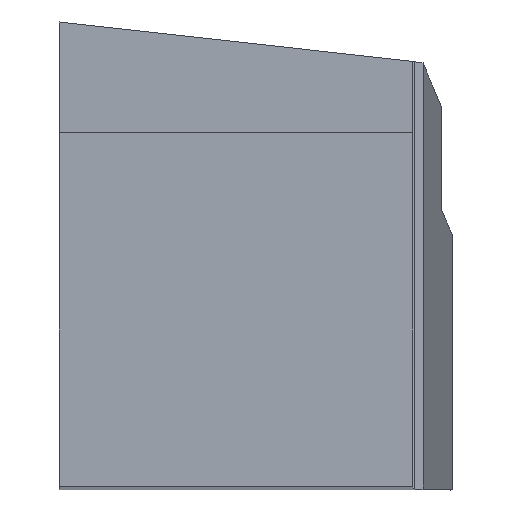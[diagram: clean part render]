
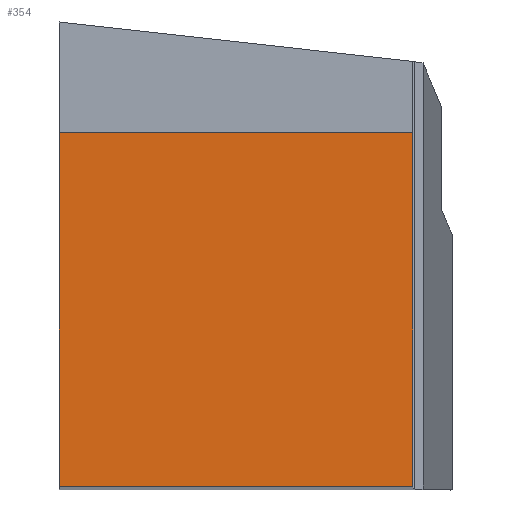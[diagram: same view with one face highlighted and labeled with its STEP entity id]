
A CAD part, top view. The second image highlights one B-rep face of the part: STEP entity #354.
In plain terms, the highlighted planar face has unit normal (0, 0, 1).
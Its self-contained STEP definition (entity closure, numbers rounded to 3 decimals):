
#252=VERTEX_POINT('',#565);
#282=EDGE_CURVE('',#252,#330,#595,.T.);
#284=EDGE_CURVE('',#450,#252,#597,.T.);
#330=VERTEX_POINT('',#646);
#354=ADVANCED_FACE('',(#674),#675,.F.);
#362=VERTEX_POINT('',#683);
#398=EDGE_CURVE('',#330,#362,#727,.T.);
#422=EDGE_CURVE('',#362,#450,#755,.T.);
#450=VERTEX_POINT('',#785);
#565=CARTESIAN_POINT('',(20.0,0.,0.0));
#595=LINE('',#969,#970);
#597=LINE('',#973,#974);
#646=CARTESIAN_POINT('',(0.0,0.,0.0));
#674=FACE_OUTER_BOUND('',#1077,.T.);
#675=PLANE('',#1078);
#683=CARTESIAN_POINT('',(0.0,20.0,0.0));
#727=LINE('',#1145,#1146);
#755=LINE('',#1186,#1187);
#785=CARTESIAN_POINT('',(20.0,20.0,0.0));
#969=CARTESIAN_POINT('',(20.0,0.,0.0));
#970=VECTOR('',#1336,1.0);
#973=CARTESIAN_POINT('',(20.0,20.0,0.0));
#974=VECTOR('',#1337,1.0);
#1077=EDGE_LOOP('',(#1425,#1426,#1427,#1428));
#1078=AXIS2_PLACEMENT_3D('',#1429,#1430,#1431);
#1145=CARTESIAN_POINT('',(0.0,0.,0.0));
#1146=VECTOR('',#1519,1.0);
#1186=CARTESIAN_POINT('',(0.0,20.0,0.0));
#1187=VECTOR('',#1562,1.0);
#1336=DIRECTION('',(-1.0,0.0,0.0));
#1337=DIRECTION('',(0.0,-1.0,0.0));
#1425=ORIENTED_EDGE('',*,*,#422,.F.);
#1426=ORIENTED_EDGE('',*,*,#398,.F.);
#1427=ORIENTED_EDGE('',*,*,#282,.F.);
#1428=ORIENTED_EDGE('',*,*,#284,.F.);
#1429=CARTESIAN_POINT('',(10.0,10.0,0.0));
#1430=DIRECTION('',(0.0,0.0,-1.0));
#1431=DIRECTION('',(-1.0,0.0,0.0));
#1519=DIRECTION('',(0.0,1.0,0.0));
#1562=DIRECTION('',(1.0,0.0,0.0));
